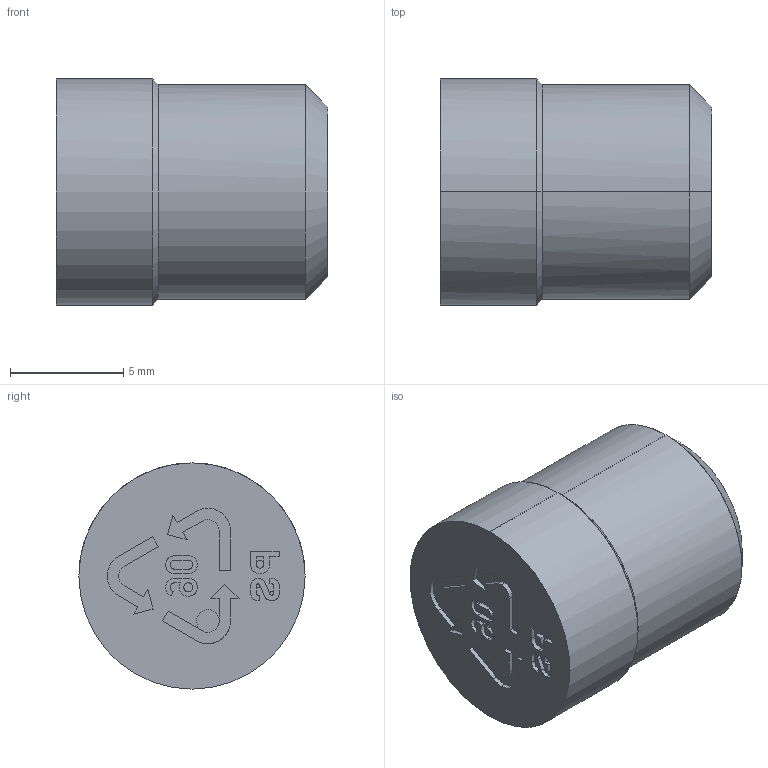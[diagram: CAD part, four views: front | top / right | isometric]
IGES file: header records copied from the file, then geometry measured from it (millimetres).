
Start section: START RECORD GO HERE.
Global section: file name: MSO610.igs; native system: DASSAULT SYSTEMES CATIA V5 R20 - www.3ds.com; preprocessor: CATIA Version 5 Release 20 ; author: Utente; organization: NB04-ASUS; date: 20210326.143834; units: millimetre
Bounding box: 12 x 10 x 10 mm (x, y, z)
Surface area: 577.2 mm2 (no closed solid volume)
Topology: 0 solids, 0 shells, 116 faces, 650 edges, 640 vertices
Faces by surface type: plane 66, revolution 50
